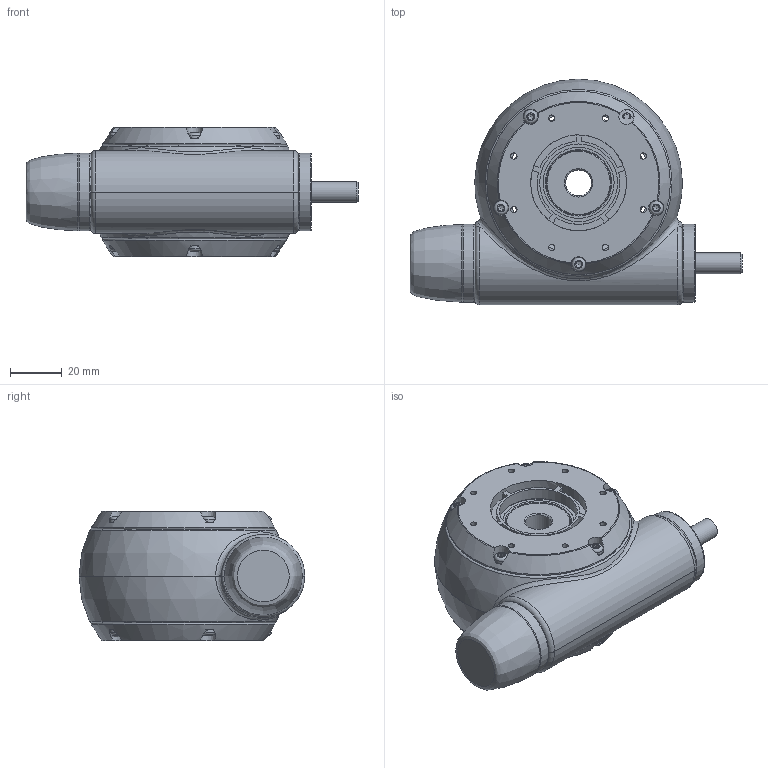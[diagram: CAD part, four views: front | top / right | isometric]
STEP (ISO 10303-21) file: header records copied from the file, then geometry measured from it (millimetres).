
FILE_DESCRIPTION(/* description */ (''),/* implementation_level */ '2;1');
FILE_NAME(/* name */ 'C:\ProgramData\PROCAD GmbH & Co. KG\NdfWork\343210_NdfWork\D00296342.step',/* time_stamp */ '2021-03-15T16:31:57+01:00',/* author */ ('fberger'),/* organization */ (''),/* preprocessor_version */ 'ST-DEVELOPER v18.1',/* originating_system */ 'Autodesk Inventor 2020',/* authorisation */ '');
FILE_SCHEMA (('AUTOMOTIVE_DESIGN { 1 0 10303 214 3 1 1 }'));
Length unit declared in the file: millimetre
Products named in the file (16): D00296342.iam; D00169642.ipt; D00169186.ipt; D00188918.ipt; D00184198.ipt; D00189428.ipt; D00188941.ipt; D00169185; D00187704.ipt; D00187700.ipt; D00187707.ipt; D00189422.ipt; D00296240.ipt; D00169074.ipt; D00170045.ipt; D00169073.ipt
Assembly tree (31 placements, depth 2):
  D00296342.iam
    D00169642.ipt  x2
    D00169186.ipt  x2
    D00188918.ipt  x2
    D00184198.ipt  x4
    D00189428.ipt
    D00188941.ipt  x2
    D00169185  x2
    D00187704.ipt  x2
    D00187700.ipt  x4
    D00187707.ipt  x4
    D00189422.ipt
    D00296240.ipt
    D00169074.ipt
    D00170045.ipt  x2
    D00169073.ipt
Bounding box: 128 x 87 x 50 mm (x, y, z)
Volume: 133755.1 mm3; surface area: 110085.3 mm2
Topology: 71 solids, 71 shells, 1039 faces, 2739 edges, 1871 vertices
Faces by surface type: cylinder 435, plane 295, cone 124, torus 98, sphere 80, bspline 7
Full cylindrical faces by diameter (mm): 2 x8, 2.4 x16, 3 x10, 3.3 x20, 4 x18, 5.3 x10, 8 x11, 8.32 x2, 10 x5, 12 x2, 15 x4, 15.68 x2, 16 x4, 17 x3, 20 x2, 23 x2, 24 x1, 25 x4, 26 x2, 27.4 x8, 28.5 x4, 30 x4, 33.3 x4, 34.3 x8, 37 x8, 41 x2, 52.5 x1, 55 x2
Entity records: 18449 total; most frequent: CARTESIAN_POINT 3951, DIRECTION 3138, ORIENTED_EDGE 2662, AXIS2_PLACEMENT_3D 1341, EDGE_CURVE 1331, VERTEX_POINT 930, CIRCLE 772, EDGE_LOOP 675
